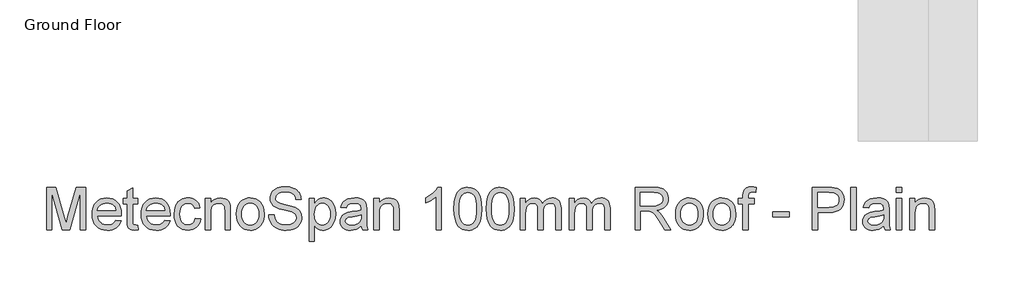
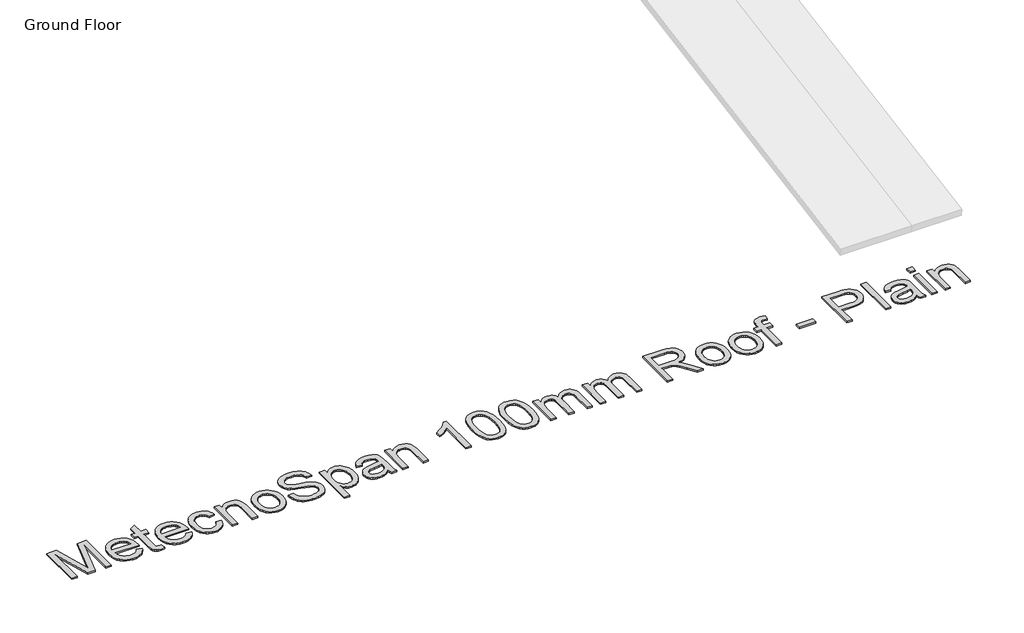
# One storey, part 9 of 14: 1 proxy.
"""IFC4 building model written with IfcOpenShell, lengths in millimetres."""

from ifc_helpers import new_model, si_unit, origin, origin_with_axes, place, context, project, spatial, polyline, outline, extrude, element, save

model = new_model("IFC4")

# Units and contexts
model_context = context("Model", 3, world=origin())
ifc_project = project(units=[si_unit("LENGTHUNIT", "METRE", prefix="MILLI")], contexts=[model_context])

# Site, building, storey
site = spatial("IfcSite", under=ifc_project)
building = spatial("IfcBuilding", under=site)
storey = spatial("IfcBuildingStorey", under=building, Name="Ground Floor", Elevation=0.0)

# Proxy
placement = place(None, origin())
element("IfcBuildingElementProxy", 1, Name="600mm Arial", ObjectType="600mm Arial", at=placement, inside=storey, context=model_context, shape_type="SweptSolid", body=[
    extrude(outline(polyline([(72437.1624792, -5207.4945964), (72437.1624792, -4604.7567355), (72566.8040943, -4604.7567355), (72690.1181391, -5029.5868635), (72714.986962, -5118.3200007), (72741.915924, -5022.2292236), (72863.1698296, -4604.7567355), (72992.8114447, -4604.7567355), (72992.8114447, -5207.4945964), (72917.4692121, -5207.4945964), (72917.4692121, -4680.0989681), (72766.0489829, -5207.4945964), (72663.924941, -5207.4945964), (72512.5047118, -4680.0989681), (72512.5047118, -5207.4945964), (72437.1624792, -5207.4945964)])), origin_with_axes(), (0.0, 0.0, 1.0), 20.0),
    extrude(outline(polyline([(73425.1463654, -5075.6456893), (73499.0170701, -5085.0634684), (73487.6909031, -5114.6503778), (73472.4008077, -5140.7240143), (73453.1467838, -5163.2843776), (73429.9288314, -5182.3314679), (73402.9860738, -5197.460615), (73372.5576342, -5208.2671486), (73338.6435128, -5214.7510687), (73301.2437095, -5216.9123755), (73254.4951049, -5213.1829717), (73212.841666, -5201.9947605), (73176.2833928, -5183.3477419), (73144.8202851, -5157.2419158), (73119.5192009, -5124.4038492), (73101.4469979, -5085.5601091), (73090.6036761, -5040.7106953), (73086.9892355, -4989.855608), (73090.6404643, -4937.2760739), (73101.5941507, -4890.9321395), (73119.8502947, -4850.823805), (73145.4088963, -4816.9510703), (73176.7892305, -4790.0405023), (73212.5105722, -4770.8186681), (73252.5729215, -4759.2855676), (73296.9762783, -4755.4412007), (73339.9494939, -4759.2763705), (73378.8116281, -4770.7818799), (73413.5626811, -4789.9577289), (73444.2026528, -4816.8039175), (73469.2140299, -4850.6030758), (73487.0792993, -4890.6378339), (73497.798461, -4936.9081919), (73501.3715148, -4989.4141496), (73500.9300564, -5009.7212358), (73162.3314681, -5009.7212358), (73166.6954683, -5039.7863918), (73175.3728848, -5066.1175456), (73188.3637178, -5088.7146972), (73205.6679671, -5107.5778465), (73226.3291397, -5122.4494761), (73249.3907422, -5133.0720688), (73274.8527748, -5139.4456243), (73302.7152374, -5141.5701428), (73342.8143749, -5137.6338055), (73376.5859421, -5125.8247934), (73404.0299389, -5105.4073427), (73425.1463654, -5075.6456893)]), holes=[polyline([(73162.3314681, -4934.3790032), (73426.0292822, -4934.3790032), (73415.838951, -4894.5741713), (73407.0741624, -4878.9207924), (73395.8629586, -4866.1001049), (73375.3167492, -4850.6490611), (73351.9378484, -4839.6126012), (73325.7262562, -4832.9907253), (73296.6819727, -4830.7834333), (73270.1898705, -4832.5446684), (73245.8958633, -4837.8283735), (73223.799951, -4846.6345488), (73203.9021335, -4858.9631941), (73187.2048895, -4874.2440925), (73174.7106972, -4891.9070268), (73166.4195568, -4911.951997), (73162.3314681, -4934.3790032)])]), origin_with_axes(), (0.0, 0.0, 1.0), 20.0),
    extrude(outline(polyline([(73736.8159918, -5144.6603516), (73746.2337708, -5209.7018883), (73689.8742492, -5216.9123755), (73653.711449, -5213.7853785), (73626.7456988, -5204.4043876), (73607.6894114, -5189.9466252), (73595.255, -5171.5893136), (73588.4123949, -5140.0618267), (73586.1315265, -5086.093538), (73586.1315265, -4840.2012124), (73529.6248521, -4840.2012124), (73529.6248521, -4764.8589798), (73586.1315265, -4764.8589798), (73586.1315265, -4657.2902844), (73661.4737591, -4612.9972922), (73661.4737591, -4764.8589798), (73736.8159918, -4764.8589798), (73736.8159918, -4840.2012124), (73661.4737591, -4840.2012124), (73661.4737591, -5083.886246), (73665.4468847, -5122.7345847), (73678.3227545, -5136.4933713), (73689.1936675, -5140.30095), (73704.0009178, -5141.5701428), (73736.8159918, -5144.6603516)])), origin_with_axes(), (0.0, 0.0, 1.0), 20.0),
    extrude(outline(polyline([(74122.0620171, -5075.6456893), (74195.9327217, -5085.0634684), (74184.6065548, -5114.6503778), (74169.3164594, -5140.7240143), (74150.0624355, -5163.2843776), (74126.844483, -5182.3314679), (74099.9017254, -5197.460615), (74069.4732859, -5208.2671486), (74035.5591645, -5214.7510687), (73998.1593611, -5216.9123755), (73951.4107566, -5213.1829717), (73909.7573177, -5201.9947605), (73873.1990444, -5183.3477419), (73841.7359368, -5157.2419158), (73816.4348526, -5124.4038492), (73798.3626495, -5085.5601091), (73787.5193277, -5040.7106953), (73783.9048871, -4989.855608), (73787.5561159, -4937.2760739), (73798.5098023, -4890.9321395), (73816.7659464, -4850.823805), (73842.324548, -4816.9510703), (73873.7048822, -4790.0405023), (73909.4262239, -4770.8186681), (73949.4885732, -4759.2855676), (73993.89193, -4755.4412007), (74036.8651455, -4759.2763705), (74075.7272798, -4770.7818799), (74110.4783328, -4789.9577289), (74141.1183045, -4816.8039175), (74166.1296816, -4850.6030758), (74183.994951, -4890.6378339), (74194.7141126, -4936.9081919), (74198.2871665, -4989.4141496), (74197.8457081, -5009.7212358), (73859.2471197, -5009.7212358), (73863.6111199, -5039.7863918), (73872.2885365, -5066.1175456), (73885.2793694, -5088.7146972), (73902.5836188, -5107.5778465), (73923.2447913, -5122.4494761), (73946.3063939, -5133.0720688), (73971.7684265, -5139.4456243), (73999.6308891, -5141.5701428), (74039.7300266, -5137.6338055), (74073.5015937, -5125.8247934), (74100.9455906, -5105.4073427), (74122.0620171, -5075.6456893)]), holes=[polyline([(73859.2471197, -4934.3790032), (74122.9449339, -4934.3790032), (74112.7546026, -4894.5741713), (74103.9898141, -4878.9207924), (74092.7786103, -4866.1001049), (74072.2324009, -4850.6490611), (74048.8535001, -4839.6126012), (74022.6419079, -4832.9907253), (73993.5976244, -4830.7834333), (73967.1055222, -4832.5446684), (73942.811515, -4837.8283735), (73920.7156026, -4846.6345488), (73900.8177852, -4858.9631941), (73884.1205411, -4874.2440925), (73871.6263489, -4891.9070268), (73863.3352084, -4911.951997), (73859.2471197, -4934.3790032)])]), origin_with_axes(), (0.0, 0.0, 1.0), 20.0),
    extrude(outline(polyline([(74556.1627714, -5047.3923521), (74631.505004, -5056.8101312), (74623.3104326, -5092.3613275), (74610.4989421, -5123.8198366), (74593.0705326, -5151.1856585), (74571.025204, -5174.4587932), (74545.2918585, -5193.0322354), (74516.7993979, -5206.2989799), (74485.5478224, -5214.2590266), (74451.537132, -5216.9123755), (74409.2812863, -5213.2105629), (74371.3940393, -5202.1051251), (74337.875391, -5183.5960623), (74308.7253415, -5157.6833742), (74285.13031, -5124.8545047), (74268.2767161, -5085.5968973), (74258.1645597, -5039.910552), (74254.793841, -4987.7954689), (74260.5511942, -4920.7489752), (74267.7478857, -4890.5780531), (74277.8232539, -4862.6420141), (74290.8462765, -4837.5018783), (74306.8859315, -4815.7186656), (74325.9422188, -4797.2923762), (74348.0151385, -4782.22301), (74372.1068107, -4770.5059684), (74397.2193554, -4762.136653), (74423.3527726, -4757.1150638), (74450.5070624, -4755.4412007), (74483.9337402, -4757.7404632), (74514.1690417, -4764.6382506), (74541.2129668, -4776.1345629), (74565.0655157, -4792.2294002), (74585.3220181, -4812.5548805), (74601.5778037, -4836.7431216), (74613.8328727, -4864.7941238), (74622.0872249, -4896.7078869), (74546.7449923, -4906.1256659), (74533.0781762, -4873.2554097), (74511.7962028, -4849.6925679), (74484.0762945, -4835.510717), (74451.0956736, -4830.7834333), (74425.4956852, -4833.1102869), (74402.4064915, -4840.0908478), (74381.8280924, -4851.7251159), (74363.7604879, -4868.0130912), (74349.0498067, -4889.3318528), (74338.5421772, -4916.0584798), (74332.2375995, -4948.1929721), (74330.1360736, -4985.7353297), (74332.1916142, -5023.8433059), (74338.3582362, -5056.3502787), (74348.6359394, -5083.2562481), (74363.0247239, -5104.5612141), (74380.7336435, -5120.7526204), (74400.9717517, -5132.3179107), (74423.7390487, -5139.2570848), (74449.0355344, -5141.5701428), (74488.04942, -5135.7943955), (74504.921408, -5128.5747114), (74520.0367595, -5118.4671535), (74532.9724101, -5105.3613575), (74543.3052957, -5089.1469585), (74551.0354161, -5069.8239567), (74556.1627714, -5047.3923521)])), origin_with_axes(), (0.0, 0.0, 1.0), 20.0),
    extrude(outline(polyline([(74697.4294576, -5207.4945964), (74697.4294576, -4764.8589798), (74772.7716902, -4764.8589798), (74772.7716902, -4826.663155), (74798.9464941, -4795.50355), (74830.3820106, -4773.2466893), (74867.0782396, -4759.8925728), (74909.0351812, -4755.4412007), (74946.1728686, -4759.0280502), (74980.1835591, -4769.7885985), (75008.5472609, -4786.3800765), (75028.7439824, -4807.4597148), (75042.4475867, -4832.9723312), (75051.3319369, -4862.8627433), (75055.3050625, -4935.7033783), (75055.3050625, -5207.4945964), (74979.9628299, -5207.4945964), (74979.9628299, -4945.8569214), (74977.7923261, -4906.8982181), (74971.2808148, -4879.1967039), (74959.2694676, -4859.3494702), (74940.5994564, -4843.9536087), (74916.6687326, -4834.0759772), (74888.8752478, -4830.7834333), (74865.9975863, -4832.6320403), (74844.7478025, -4838.1778614), (74825.1258966, -4847.4208965), (74807.1318685, -4860.3611457), (74792.0992905, -4878.4701369), (74781.3617348, -4903.2193982), (74774.9192013, -4934.6089294), (74772.7716902, -4972.6387307), (74772.7716902, -5207.4945964), (74697.4294576, -5207.4945964)])), origin_with_axes(), (0.0, 0.0, 1.0), 20.0),
    extrude(outline(polyline([(75140.0650742, -4986.1767881), (75144.1393673, -4928.8515762), (75156.3622465, -4879.4542213), (75176.733712, -4837.9847234), (75205.2537637, -4804.4430825), (75233.9669534, -4783.0047592), (75265.6599873, -4767.6916711), (75300.3328654, -4758.5038183), (75337.9855876, -4755.4412007), (75379.5516545, -4759.1706044), (75417.1353988, -4770.3588156), (75450.7368206, -4789.0058342), (75480.3559197, -4815.1116603), (75504.5303653, -4847.7933771), (75521.7978265, -4886.1680677), (75532.1583031, -4930.2357322), (75535.6117954, -4979.9963706), (75534.0850851, -5020.3254343), (75529.5049543, -5056.1111554), (75521.8714029, -5087.3535338), (75511.1844309, -5114.0525696), (75497.5773956, -5137.1141722), (75481.1836542, -5157.4442509), (75462.0032067, -5175.0428059), (75440.036053, -5189.909837), (75416.1375189, -5201.7234476), (75391.16293, -5210.1617408), (75365.1122862, -5215.2247168), (75337.9855876, -5216.9123755), (75295.8125153, -5213.1967673), (75257.8792831, -5202.0499428), (75224.1858909, -5183.4719021), (75194.7323386, -5157.462645), (75170.8154104, -5124.4636301), (75153.7318903, -5084.9163156), (75143.4817782, -5038.8207016), (75140.0650742, -4986.1767881)]), holes=[polyline([(75215.4073068, -4986.0296353), (75217.5870076, -5022.574113), (75224.1261101, -5054.2165631), (75235.0246142, -5080.9569856), (75250.2825199, -5102.7953805), (75268.8421666, -5119.7593391), (75289.6458934, -5131.8764523), (75312.6937004, -5139.1467202), (75337.9855876, -5141.5701428), (75363.148716, -5139.1329246), (75386.1045525, -5131.82127), (75406.8530971, -5119.6351789), (75425.3943496, -5102.5746514), (75440.6522554, -5080.5201257), (75451.5507595, -5053.3520404), (75458.0898619, -5021.0703953), (75460.2695628, -4983.6751905), (75458.0760664, -4948.2895411), (75451.4955772, -4917.4748255), (75440.5280952, -4891.2310436), (75425.1736204, -4869.5581956), (75406.56339, -4852.5942371), (75385.828641, -4840.4771239), (75362.9693736, -4833.206856), (75337.9855876, -4830.7834333), (75312.6937004, -4833.1976589), (75289.6458934, -4840.4403357), (75268.8421666, -4852.5114637), (75250.2825199, -4869.4110428), (75235.0246142, -4891.1850584), (75224.1261101, -4917.8794957), (75217.5870076, -4949.4943546), (75215.4073068, -4986.0296353)])]), origin_with_axes(), (0.0, 0.0, 1.0), 20.0),
    extrude(outline(polyline([(75601.5362489, -5000.3034567), (75676.8784815, -5000.3034567), (75685.5237084, -5042.1132454), (75701.1586932, -5075.7192657), (75725.5492695, -5102.3907104), (75760.4612708, -5123.3967723), (75803.1355823, -5137.0268002), (75850.8130888, -5141.5701428), (75892.7884245, -5138.1304462), (75929.5398358, -5127.8113562), (75959.3198833, -5111.4773956), (75980.3811275, -5089.9930871), (75992.9075095, -5065.3265993), (75997.0829701, -5039.446101), (75993.9559732, -5014.2277902), (75984.5749823, -4992.430782), (75965.5186949, -4973.8343471), (75933.3658086, -4958.2177564), (75823.6633976, -4929.4493844), (75751.650497, -4910.4114912), (75705.5732771, -4892.2933029), (75668.0677077, -4866.9462334), (75641.4882336, -4836.2280868), (75625.6509137, -4800.8010507), (75620.3718071, -4761.3273126), (75622.0042834, -4738.8911094), (75626.9017125, -4717.1998673), (75635.0640942, -4696.2535862), (75646.4914287, -4676.0522661), (75661.0549572, -4657.4190431), (75678.625921, -4641.177053), (75699.2043201, -4627.3262959), (75722.7901545, -4615.8667717), (75775.80195, -4600.4709102), (75834.4791283, -4595.3389564), (75898.049137, -4600.7100335), (75953.6728947, -4616.8232649), (75978.0082887, -4628.825415), (75999.3638385, -4643.3475568), (76017.7395441, -4660.3896902), (76033.1354056, -4679.9518153), (76045.4318613, -4701.463715), (76054.5093496, -4724.3551721), (76060.3678703, -4748.6261867), (76063.0074237, -4774.2767589), (75987.665191, -4774.2767589), (75982.6252077, -4750.2356705), (75973.832828, -4729.321579), (75961.288052, -4711.5344846), (75944.9908796, -4696.8743871), (75924.6378082, -4685.4148629), (75899.9253352, -4677.2294885), (75870.8534605, -4672.3182639), (75837.4221842, -4670.681189), (75802.9240501, -4672.2998698), (75773.4475053, -4677.1559121), (75748.9925496, -4685.249316), (75729.5591832, -4696.5800815), (75714.7519329, -4710.2009123), (75704.1753256, -4725.1645125), (75697.8293611, -4741.4708819), (75695.7140397, -4759.1200207), (75697.2131588, -4774.30435), (75701.7105162, -4788.0723337), (75709.2061118, -4800.4239717), (75719.6999458, -4811.359264), (75736.2178473, -4821.7151421), (75762.2271044, -4832.1813849), (75842.7196849, -4853.4449642), (75925.7874395, -4873.6416858), (75976.04012, -4891.2632333), (76018.9903429, -4918.5968656), (76035.5956165, -4934.6641117), (76048.9543314, -4952.3316445), (76059.2228376, -4971.5074935), (76066.5574849, -4992.0996882), (76072.4252027, -5037.5331146), (76070.7375441, -5061.1005549), (76065.6745681, -5083.9782165), (76057.2362749, -5106.1660993), (76045.4226643, -5127.6642034), (76030.44067, -5147.6401958), (76012.4972257, -5165.2617433), (75991.5923313, -5180.5288461), (75967.7259869, -5193.4415042), (75941.5925697, -5203.7100104), (75913.8864569, -5211.0446576), (75853.7561448, -5216.9123755), (75815.2159073, -5215.3304829), (75779.9406225, -5210.5848051), (75747.9302904, -5202.6753422), (75719.184911, -5191.6020942), (75693.5297403, -5177.3466669), (75670.7900345, -5159.8906662), (75650.9657935, -5139.2340922), (75634.0570173, -5115.3769448), (75620.4361864, -5089.0917762), (75610.4757814, -5061.1511387), (75604.1758022, -5031.5550322), (75601.5362489, -5000.3034567)])), origin_with_axes(), (0.0, 0.0, 1.0), 20.0),
    extrude(outline(polyline([(76176.0207726, -5377.0146198), (76176.0207726, -4764.8589798), (76251.3630052, -4764.8589798), (76251.3630052, -4838.7296844), (76275.9375225, -4802.2909728), (76303.4550957, -4776.2633216), (76335.5344057, -4760.6467309), (76373.7941332, -4755.4412007), (76400.0701047, -4757.2622166), (76424.7457895, -4762.7252642), (76447.8211877, -4771.8303436), (76469.2962991, -4784.5774547), (76488.7020744, -4800.6355038), (76505.5694639, -4819.6733971), (76519.8984676, -4841.6911345), (76531.6890855, -4866.688716), (76547.4712231, -4922.2021091), (76552.7319356, -4982.7922737), (76546.7906414, -5047.2268052), (76539.3640236, -5076.8918896), (76528.9667587, -5104.8555197), (76515.741401, -5130.3865302), (76499.8305047, -5152.7537555), (76481.2340699, -5171.9571956), (76459.9520965, -5187.9968506), (76437.0284496, -5200.6473927), (76413.5069946, -5209.6834942), (76389.3877313, -5215.1051552), (76364.6706597, -5216.9123755), (76330.0345699, -5212.0747272), (76299.1140882, -5197.5617825), (76272.6449786, -5175.6544097), (76251.3630052, -5148.6334771), (76251.3630052, -5377.0146198), (76176.0207726, -5377.0146198)]), holes=[polyline([(76251.3630052, -4989.7084552), (76253.4001517, -5026.0184082), (76259.5115914, -5057.2515895), (76269.6973241, -5083.4079994), (76283.95735, -5104.4876377), (76301.1236436, -5120.7112337), (76320.0281796, -5132.2995166), (76340.670958, -5139.2524863), (76363.0519789, -5141.5701428), (76385.7548965, -5139.1697128), (76406.774754, -5131.9684228), (76426.1115514, -5119.9662727), (76443.7652887, -5103.1632625), (76458.4759699, -5081.3202691), (76468.9835994, -5054.198169), (76475.2881771, -5021.7969623), (76477.389703, -4984.1166489), (76475.3387609, -4948.1193957), (76469.1859345, -4916.9413966), (76458.9312239, -4890.5826516), (76444.5746291, -4869.0431608), (76427.3669487, -4852.30453), (76408.5589817, -4840.3483652), (76388.150728, -4833.1746663), (76366.1421877, -4830.7834333), (76344.2026252, -4833.3264176), (76323.5598467, -4840.9553705), (76304.2138523, -4853.6702919), (76286.1646419, -4871.471182), (76270.9389259, -4894.1189173), (76260.0634144, -4921.3743746), (76253.5381075, -4953.2375539), (76251.3630052, -4989.7084552)])]), origin_with_axes(), (0.0, 0.0, 1.0), 20.0),
    extrude(outline(polyline([(76920.0253196, -5150.9879219), (76884.0280664, -5181.8532213), (76846.9639554, -5202.0499428), (76807.986858, -5213.1967673), (76766.2506456, -5216.9123755), (76732.7044062, -5214.6774923), (76703.2876422, -5207.972843), (76678.0003535, -5196.7984274), (76656.8425403, -5181.1542455), (76640.1360992, -5162.0335788), (76628.2029269, -5140.4297087), (76621.0430236, -5116.342635), (76618.6563892, -5089.7723579), (76622.2616327, -5058.5391765), (76633.0773634, -5030.1754747), (76649.7608119, -5005.895263), (76670.9692089, -4986.9125521), (76695.8932141, -4972.5651543), (76723.723487, -4962.190882), (76788.9121765, -4950.8601165), (76865.9466663, -4938.9407399), (76919.5838612, -4924.9612241), (76920.0253196, -4908.1858051), (76914.8381835, -4874.5613907), (76908.3542633, -4862.1085852), (76899.2767751, -4852.5620474), (76883.586608, -4843.0339038), (76864.4751383, -4836.2280868), (76815.9882914, -4830.7834333), (76771.106688, -4834.407071), (76739.763142, -4845.2779839), (76718.3891981, -4865.382735), (76703.4164009, -4896.7078869), (76628.0741682, -4887.2901078), (76641.1523732, -4846.0873243), (76660.668513, -4813.7137087), (76688.4436037, -4788.9552505), (76726.298661, -4770.5979389), (76772.5966101, -4759.2303853), (76825.7003761, -4755.4412007), (76876.6336383, -4758.7889269), (76917.0086873, -4768.8321053), (76947.4509224, -4783.9336612), (76968.585743, -4802.4565197), (76982.602047, -4825.3571739), (76991.6887323, -4853.592117), (76995.3675522, -4919.5165706), (76995.3675522, -5013.2529029), (76999.193525, -5144.1453168), (77004.8589077, -5176.5005383), (77014.2031104, -5207.4945964), (76938.8608778, -5207.4945964), (76926.7943483, -5181.3013983), (76920.0253196, -5150.9879219)]), holes=[polyline([(76920.0253196, -5000.3034567), (76869.4047571, -5012.8482327), (76798.4771084, -5023.406446), (76733.6563009, -5035.6201282), (76716.7889114, -5043.9710495), (76704.2993176, -5055.485756), (76696.5737957, -5069.2813308), (76693.9986218, -5084.4748572), (76699.6088222, -5106.8788707), (76716.4394235, -5125.2361823), (76744.1225436, -5137.4866527), (76782.2903006, -5141.5701428), (76822.7573201, -5137.0635884), (76858.51545, -5123.5439251), (76887.5045512, -5103.623115), (76907.6644846, -5079.9131204), (76916.6040171, -5055.485756), (76919.5838612, -5021.6406124), (76920.0253196, -5000.3034567)])]), origin_with_axes(), (0.0, 0.0, 1.0), 20.0),
    extrude(outline(polyline([(77098.9631221, -5207.4945964), (77098.9631221, -4764.8589798), (77174.3053547, -4764.8589798), (77174.3053547, -4826.663155), (77200.4801586, -4795.50355), (77231.9156751, -4773.2466893), (77268.6119041, -4759.8925728), (77310.5688457, -4755.4412007), (77347.7065331, -4759.0280502), (77381.7172236, -4769.7885985), (77410.0809254, -4786.3800765), (77430.2776469, -4807.4597148), (77443.9812512, -4832.9723312), (77452.8656014, -4862.8627433), (77456.838727, -4935.7033783), (77456.838727, -5207.4945964), (77381.4964944, -5207.4945964), (77381.4964944, -4945.8569214), (77379.3259906, -4906.8982181), (77372.8144793, -4879.1967039), (77360.8031321, -4859.3494702), (77342.1331209, -4843.9536087), (77318.2023971, -4834.0759772), (77290.4089124, -4830.7834333), (77267.5312508, -4832.6320403), (77246.281467, -4838.1778614), (77226.6595611, -4847.4208965), (77208.665533, -4860.3611457), (77193.632955, -4878.4701369), (77182.8953993, -4903.2193982), (77176.4528658, -4934.6089294), (77174.3053547, -4972.6387307), (77174.3053547, -5207.4945964), (77098.9631221, -5207.4945964)])), origin_with_axes(), (0.0, 0.0, 1.0), 20.0),
    extrude(outline(polyline([(78059.5765879, -5207.4945964), (77984.2343553, -5207.4945964), (77984.2343553, -4737.7828649), (77952.7804447, -4763.2219049), (77912.8652482, -4788.6241567), (77870.963489, -4810.8258351), (77833.54989, -4826.663155), (77833.54989, -4755.4412007), (77892.723709, -4723.2515261), (77943.988065, -4684.9550104), (77984.3999022, -4644.2304736), (78011.0161645, -4604.7567355), (78059.5765879, -4604.7567355), (78059.5765879, -5207.4945964)])), origin_with_axes(), (0.0, 0.0, 1.0), 20.0),
    extrude(outline(polyline([(78238.5143903, -4910.9817083), (78244.0510144, -4814.504655), (78250.9717944, -4773.5915786), (78260.6608864, -4737.5621357), (78273.0769038, -4706.1220207), (78288.1784597, -4678.976928), (78305.9655541, -4656.1268576), (78326.4381872, -4637.5718094), (78349.6653367, -4623.2152146), (78375.7159804, -4612.960504), (78404.5901185, -4606.8076776), (78436.2877509, -4604.7567355), (78482.7144587, -4609.6127778), (78524.2851242, -4624.1809048), (78559.0499727, -4647.8908994), (78585.0592298, -4680.1725445), (78604.7041283, -4720.7499286), (78620.3759013, -4769.3471401), (78630.639809, -4831.0593448), (78634.0611115, -4910.9817083), (78628.5796698, -5006.9069385), (78621.7278677, -5047.6820591), (78612.1353446, -5083.6655168), (78599.8158963, -5115.1194274), (78584.7833183, -5142.3059068), (78567.0376106, -5165.2249551), (78546.5787731, -5183.8765723), (78523.3240325, -5198.3297362), (78497.1906152, -5208.6534247), (78468.1785214, -5214.8476378), (78436.2877509, -5216.9123755), (78394.7906619, -5213.325526), (78358.0024624, -5202.5649776), (78325.9231524, -5184.6307304), (78298.5527319, -5159.5227842), (78272.2859575, -5114.135343), (78253.5239757, -5057.5826833), (78242.2667867, -4989.8648051), (78238.5143903, -4910.9817083)]), holes=[polyline([(78313.8566229, -4910.8345555), (78316.0639149, -4976.3313462), (78322.6857908, -5029.3477402), (78333.7222507, -5069.8837376), (78349.1732945, -5097.9393382), (78367.8616998, -5117.0278152), (78388.6102444, -5130.6624417), (78411.4189281, -5138.8432176), (78436.2877509, -5141.5701428), (78461.1565738, -5138.8340205), (78483.9652575, -5130.6256535), (78504.713802, -5116.9450418), (78523.4022074, -5097.7921854), (78538.8532512, -5069.6905995), (78549.8897111, -5029.1637992), (78556.511587, -4976.2117845), (78558.7188789, -4910.8345555), (78556.5851634, -4847.0714087), (78550.1840166, -4794.9885152), (78539.5154388, -4754.5858751), (78524.5794298, -4725.8634883), (78506.2037241, -4705.8415107), (78485.2160563, -4691.5400981), (78461.6164263, -4682.9592506), (78435.4048342, -4680.0989681), (78410.66477, -4682.6189598), (78388.2423624, -4690.1789348), (78368.1376113, -4702.7788931), (78350.3505169, -4720.4188348), (78334.3844383, -4751.6888044), (78322.9800964, -4793.848081), (78316.1374913, -4846.8966647), (78313.8566229, -4910.8345555)])]), origin_with_axes(), (0.0, 0.0, 1.0), 20.0),
    extrude(outline(polyline([(78699.9855651, -4910.9817083), (78705.5221891, -4814.504655), (78712.4429691, -4773.5915786), (78722.1320612, -4737.5621357), (78734.5480785, -4706.1220207), (78749.6496344, -4678.976928), (78767.4367289, -4656.1268576), (78787.9093619, -4637.5718094), (78811.1365114, -4623.2152146), (78837.1871552, -4612.960504), (78866.0612933, -4606.8076776), (78897.7589257, -4604.7567355), (78944.1856335, -4609.6127778), (78985.7562989, -4624.1809048), (79020.5211475, -4647.8908994), (79046.5304045, -4680.1725445), (79066.1753031, -4720.7499286), (79081.8470761, -4769.3471401), (79092.1109837, -4831.0593448), (79095.5322863, -4910.9817083), (79090.0508446, -5006.9069385), (79083.1990424, -5047.6820591), (79073.6065194, -5083.6655168), (79061.2870711, -5115.1194274), (79046.254493, -5142.3059068), (79028.5087853, -5165.2249551), (79008.0499478, -5183.8765723), (78984.7952072, -5198.3297362), (78958.66179, -5208.6534247), (78929.6496961, -5214.8476378), (78897.7589257, -5216.9123755), (78856.2618366, -5213.325526), (78819.4736371, -5202.5649776), (78787.3943271, -5184.6307304), (78760.0239067, -5159.5227842), (78733.7571322, -5114.135343), (78714.9951505, -5057.5826833), (78703.7379614, -4989.8648051), (78699.9855651, -4910.9817083)]), holes=[polyline([(78775.3277977, -4910.8345555), (78777.5350897, -4976.3313462), (78784.1569656, -5029.3477402), (78795.1934254, -5069.8837376), (78810.6444692, -5097.9393382), (78829.3328746, -5117.0278152), (78850.0814191, -5130.6624417), (78872.8901028, -5138.8432176), (78897.7589257, -5141.5701428), (78922.6277486, -5138.8340205), (78945.4364323, -5130.6256535), (78966.1849768, -5116.9450418), (78984.8733821, -5097.7921854), (79000.3244259, -5069.6905995), (79011.3608858, -5029.1637992), (79017.9827617, -4976.2117845), (79020.1900537, -4910.8345555), (79018.0563381, -4847.0714087), (79011.6551914, -4794.9885152), (79000.9866135, -4754.5858751), (78986.0506045, -4725.8634883), (78967.6748989, -4705.8415107), (78946.687231, -4691.5400981), (78923.0876011, -4682.9592506), (78896.8760089, -4680.0989681), (78872.1359447, -4682.6189598), (78849.7135371, -4690.1789348), (78829.6087861, -4702.7788931), (78811.8216916, -4720.4188348), (78795.855613, -4751.6888044), (78784.4512712, -4793.848081), (78777.6086661, -4846.8966647), (78775.3277977, -4910.8345555)])]), origin_with_axes(), (0.0, 0.0, 1.0), 20.0),
    extrude(outline(polyline([(79180.292298, -5207.4945964), (79180.292298, -4764.8589798), (79255.6345306, -4764.8589798), (79255.6345306, -4837.6996148), (79278.2960615, -4804.2407474), (79307.4323155, -4778.0291552), (79342.0500113, -4761.0881893), (79381.1558674, -4755.4412007), (79423.0576266, -4761.1985539), (79440.8907063, -4768.3952455), (79456.6452528, -4778.4706136), (79481.7348048, -4806.1169455), (79498.1423418, -4842.9971156), (79525.6047328, -4804.6914028), (79556.9298846, -4777.3301794), (79592.1177975, -4760.9134454), (79631.1684713, -4755.4412007), (79661.3301964, -4757.7174705), (79687.8039044, -4764.5462801), (79710.5895955, -4775.9276293), (79729.6872696, -4791.8615182), (79744.784227, -4812.5318878), (79755.5677679, -4838.1226791), (79762.0378925, -4868.6338921), (79764.1946007, -4904.0655268), (79764.1946007, -5207.4945964), (79688.8523681, -5207.4945964), (79688.8523681, -4936.4391423), (79687.1049286, -4898.8599965), (79681.8626102, -4873.5313212), (79672.0401609, -4856.1856851), (79656.5523289, -4842.5556572), (79636.6315189, -4833.7264893), (79613.5101355, -4830.7834333), (79592.1591842, -4832.6688285), (79572.6936281, -4838.3250142), (79555.1134673, -4847.7519903), (79539.4187017, -4860.9497569), (79526.5106422, -4878.30459), (79517.2905997, -4900.2027658), (79511.7585742, -4926.6442842), (79509.9145657, -4957.6291453), (79509.9145657, -5207.4945964), (79434.5723331, -5207.4945964), (79434.5723331, -4928.0514328), (79430.2129314, -4885.4506978), (79424.7636794, -4868.7304611), (79417.1347265, -4855.063645), (79407.0225701, -4844.4410524), (79394.1237077, -4836.8534862), (79378.4381391, -4832.3009465), (79359.9658644, -4830.7834333), (79330.939975, -4834.8301353), (79304.194954, -4846.9702411), (79282.1220343, -4866.9094452), (79267.1124488, -4894.3534421), (79258.5040102, -4932.4292286), (79255.6345306, -4984.2638017), (79255.6345306, -5207.4945964), (79180.292298, -5207.4945964)])), origin_with_axes(), (0.0, 0.0, 1.0), 20.0),
    extrude(outline(polyline([(79877.2079496, -5207.4945964), (79877.2079496, -4764.8589798), (79952.5501823, -4764.8589798), (79952.5501823, -4837.6996148), (79975.2117132, -4804.2407474), (80004.3479672, -4778.0291552), (80038.9656629, -4761.0881893), (80078.071519, -4755.4412007), (80119.9732783, -4761.1985539), (80137.806358, -4768.3952455), (80153.5609044, -4778.4706136), (80178.6504565, -4806.1169455), (80195.0579935, -4842.9971156), (80222.5203844, -4804.6914028), (80253.8455363, -4777.3301794), (80289.0334491, -4760.9134454), (80328.0841229, -4755.4412007), (80358.245848, -4757.7174705), (80384.7195561, -4764.5462801), (80407.5052472, -4775.9276293), (80426.6029212, -4791.8615182), (80441.6998786, -4812.5318878), (80452.4834196, -4838.1226791), (80458.9535442, -4868.6338921), (80461.1102524, -4904.0655268), (80461.1102524, -5207.4945964), (80385.7680198, -5207.4945964), (80385.7680198, -4936.4391423), (80384.0205803, -4898.8599965), (80378.7782619, -4873.5313212), (80368.9558126, -4856.1856851), (80353.4679806, -4842.5556572), (80333.5471706, -4833.7264893), (80310.4257872, -4830.7834333), (80289.0748359, -4832.6688285), (80269.6092798, -4838.3250142), (80252.029119, -4847.7519903), (80236.3343533, -4860.9497569), (80223.4262938, -4878.30459), (80214.2062513, -4900.2027658), (80208.6742258, -4926.6442842), (80206.8302173, -4957.6291453), (80206.8302173, -5207.4945964), (80131.4879847, -5207.4945964), (80131.4879847, -4928.0514328), (80127.1285831, -4885.4506978), (80121.679331, -4868.7304611), (80114.0503781, -4855.063645), (80103.9382218, -4844.4410524), (80091.0393593, -4836.8534862), (80075.3537908, -4832.3009465), (80056.8815161, -4830.7834333), (80027.8556267, -4834.8301353), (80001.1106056, -4846.9702411), (79979.0376859, -4866.9094452), (79964.0281005, -4894.3534421), (79955.4196618, -4932.4292286), (79952.5501823, -4984.2638017), (79952.5501823, -5207.4945964), (79877.2079496, -5207.4945964)])), origin_with_axes(), (0.0, 0.0, 1.0), 20.0),
    extrude(outline(polyline([(80818.9858573, -5207.4945964), (80818.9858573, -4604.7567355), (81078.7105459, -4604.7567355), (81148.5161545, -4608.8218315), (81199.3022639, -4621.0171197), (81218.9011772, -4630.7108102), (81236.4215572, -4643.5314978), (81251.863404, -4659.4791823), (81265.2267175, -4678.5538637), (81276.0102584, -4699.7300711), (81283.7127877, -4721.9823332), (81288.3343053, -4745.3106503), (81289.8748111, -4769.7150221), (81287.3226298, -4800.672292), (81279.6660858, -4829.0911761), (81266.9051791, -4854.9716745), (81249.0399097, -4878.3137871), (81225.8403513, -4898.3725529), (81197.0765778, -4914.4030108), (81162.7485892, -4926.4051609), (81122.8563853, -4934.3790032), (81147.68842, -4950.6025991), (81165.6778496, -4966.6054659), (81196.543149, -5003.2097245), (81226.7462608, -5044.1549905), (81327.2516218, -5207.4945964), (81239.695707, -5207.4945964), (81161.2632656, -5082.5618708), (81104.6094384, -4999.8619983), (81083.5481941, -4975.7473335), (81064.8046065, -4960.7929304), (81028.9729001, -4946.4455326), (80985.2685191, -4943.7967822), (80894.3280899, -4943.7967822), (80894.3280899, -5207.4945964), (80818.9858573, -5207.4945964)]), holes=[polyline([(80894.3280899, -4868.4545496), (81062.9651965, -4868.4545496), (81111.3968612, -4865.7874052), (81148.976007, -4857.7859718), (81177.2661324, -4843.9168205), (81197.8307359, -4823.6465226), (81210.3571179, -4799.1271876), (81214.5325785, -4772.5109253), (81212.5414172, -4753.2431058), (81206.5679333, -4735.759514), (81196.6121268, -4720.0601498), (81182.6739977, -4706.1450133), (81164.4316493, -4694.7498685), (81141.5631848, -4686.6104794), (81114.0686042, -4681.7268459), (81081.9479075, -4680.0989681), (80894.3280899, -4680.0989681), (80894.3280899, -4868.4545496)])]), origin_with_axes(), (0.0, 0.0, 1.0), 20.0),
    extrude(outline(polyline([(81393.470381, -4986.1767881), (81397.5446741, -4928.8515762), (81409.7675534, -4879.4542213), (81430.1390188, -4837.9847234), (81458.6590705, -4804.4430825), (81487.3722602, -4783.0047592), (81519.0652941, -4767.6916711), (81553.7381722, -4758.5038183), (81591.3908944, -4755.4412007), (81632.9569613, -4759.1706044), (81670.5407056, -4770.3588156), (81704.1421274, -4789.0058342), (81733.7612265, -4815.1116603), (81757.9356721, -4847.7933771), (81775.2031333, -4886.1680677), (81785.56361, -4930.2357322), (81789.0171022, -4979.9963706), (81787.4903919, -5020.3254343), (81782.9102611, -5056.1111554), (81775.2767097, -5087.3535338), (81764.5897377, -5114.0525696), (81750.9827024, -5137.1141722), (81734.588961, -5157.4442509), (81715.4085135, -5175.0428059), (81693.4413598, -5189.909837), (81669.5428257, -5201.7234476), (81644.5682368, -5210.1617408), (81618.517593, -5215.2247168), (81591.3908944, -5216.9123755), (81549.2178222, -5213.1967673), (81511.2845899, -5202.0499428), (81477.5911977, -5183.4719021), (81448.1376455, -5157.462645), (81424.2207172, -5124.4636301), (81407.1371971, -5084.9163156), (81396.887085, -5038.8207016), (81393.470381, -4986.1767881)]), holes=[polyline([(81468.8126136, -4986.0296353), (81470.9923144, -5022.574113), (81477.5314169, -5054.2165631), (81488.429921, -5080.9569856), (81503.6878267, -5102.7953805), (81522.2474734, -5119.7593391), (81543.0512002, -5131.8764523), (81566.0990072, -5139.1467202), (81591.3908944, -5141.5701428), (81616.5540228, -5139.1329246), (81639.5098593, -5131.82127), (81660.2584039, -5119.6351789), (81678.7996564, -5102.5746514), (81694.0575622, -5080.5201257), (81704.9560663, -5053.3520404), (81711.4951687, -5021.0703953), (81713.6748696, -4983.6751905), (81711.4813732, -4948.2895411), (81704.900884, -4917.4748255), (81693.933402, -4891.2310436), (81678.5789272, -4869.5581956), (81659.9686968, -4852.5942371), (81639.2339478, -4840.4771239), (81616.3746804, -4833.206856), (81591.3908944, -4830.7834333), (81566.0990072, -4833.1976589), (81543.0512002, -4840.4403357), (81522.2474734, -4852.5114637), (81503.6878267, -4869.4110428), (81488.429921, -4891.1850584), (81477.5314169, -4917.8794957), (81470.9923144, -4949.4943546), (81468.8126136, -4986.0296353)])]), origin_with_axes(), (0.0, 0.0, 1.0), 20.0),
    extrude(outline(polyline([(81854.9415557, -4986.1767881), (81859.0158488, -4928.8515762), (81871.2387281, -4879.4542213), (81891.6101936, -4837.9847234), (81920.1302453, -4804.4430825), (81948.843435, -4783.0047592), (81980.5364689, -4767.6916711), (82015.2093469, -4758.5038183), (82052.8620691, -4755.4412007), (82094.4281361, -4759.1706044), (82132.0118804, -4770.3588156), (82165.6133021, -4789.0058342), (82195.2324013, -4815.1116603), (82219.4068469, -4847.7933771), (82236.674308, -4886.1680677), (82247.0347847, -4930.2357322), (82250.4882769, -4979.9963706), (82248.9615667, -5020.3254343), (82244.3814358, -5056.1111554), (82236.7478844, -5087.3535338), (82226.0609125, -5114.0525696), (82212.4538772, -5137.1141722), (82196.0601357, -5157.4442509), (82176.8796882, -5175.0428059), (82154.9125346, -5189.909837), (82131.0140005, -5201.7234476), (82106.0394115, -5210.1617408), (82079.9887677, -5215.2247168), (82052.8620691, -5216.9123755), (82010.6889969, -5213.1967673), (81972.7557647, -5202.0499428), (81939.0623724, -5183.4719021), (81909.6088202, -5157.462645), (81885.691892, -5124.4636301), (81868.6083718, -5084.9163156), (81858.3582597, -5038.8207016), (81854.9415557, -4986.1767881)]), holes=[polyline([(81930.2837883, -4986.0296353), (81932.4634892, -5022.574113), (81939.0025916, -5054.2165631), (81949.9010957, -5080.9569856), (81965.1590015, -5102.7953805), (81983.7186481, -5119.7593391), (82004.522375, -5131.8764523), (82027.570182, -5139.1467202), (82052.8620691, -5141.5701428), (82078.0251976, -5139.1329246), (82100.9810341, -5131.82127), (82121.7295786, -5119.6351789), (82140.2708312, -5102.5746514), (82155.5287369, -5080.5201257), (82166.427241, -5053.3520404), (82172.9663435, -5021.0703953), (82175.1460443, -4983.6751905), (82172.9525479, -4948.2895411), (82166.3720587, -4917.4748255), (82155.4045768, -4891.2310436), (82140.050102, -4869.5581956), (82121.4398715, -4852.5942371), (82100.7051226, -4840.4771239), (82077.8458551, -4833.206856), (82052.8620691, -4830.7834333), (82027.570182, -4833.1976589), (82004.522375, -4840.4403357), (81983.7186481, -4852.5114637), (81965.1590015, -4869.4110428), (81949.9010957, -4891.1850584), (81939.0025916, -4917.8794957), (81932.4634892, -4949.4943546), (81930.2837883, -4986.0296353)])]), origin_with_axes(), (0.0, 0.0, 1.0), 20.0),
    extrude(outline(polyline([(82354.0838468, -5207.4945964), (82354.0838468, -4840.2012124), (82288.1593932, -4840.2012124), (82288.1593932, -4764.8589798), (82354.0838468, -4764.8589798), (82354.0838468, -4720.271682), (82356.0704095, -4683.3731178), (82362.0300979, -4657.4374372), (82377.1868361, -4632.3846733), (82400.584131, -4612.5558338), (82433.3256285, -4599.6431757), (82476.5149748, -4595.3389564), (82509.2196841, -4597.3990956), (82545.2353315, -4603.5795131), (82534.1988716, -4674.2128562), (82490.7887962, -4670.681189), (82462.1491829, -4673.808186), (82443.3320188, -4683.1891768), (82432.9025642, -4701.10503), (82429.4260794, -4729.8366138), (82429.4260794, -4764.8589798), (82514.1860911, -4764.8589798), (82514.1860911, -4840.2012124), (82429.4260794, -4840.2012124), (82429.4260794, -5207.4945964), (82354.0838468, -5207.4945964)])), origin_with_axes(), (0.0, 0.0, 1.0), 20.0),
    extrude(outline(polyline([(82777.8839052, -5028.5567939), (82777.8839052, -4953.2145613), (83013.3283821, -4953.2145613), (83013.3283821, -5028.5567939), (82777.8839052, -5028.5567939)])), origin_with_axes(), (0.0, 0.0, 1.0), 20.0),
    extrude(outline(polyline([(83342.9506498, -5207.4945964), (83342.9506498, -4604.7567355), (83566.3285973, -4604.7567355), (83618.3471114, -4606.1914753), (83656.3861097, -4610.4956946), (83696.5404295, -4621.2194548), (83729.5946267, -4638.6754554), (83756.2108891, -4663.6546429), (83777.0514041, -4696.9479635), (83790.5158851, -4736.2193665), (83795.0040455, -4779.1328012), (83791.9736175, -4816.1325329), (83782.8823337, -4850.1708145), (83767.7301941, -4881.247646), (83746.5171985, -4909.3630275), (83717.3947401, -4932.6683519), (83678.5142117, -4949.3150122), (83629.8756134, -4959.3030083), (83571.4789452, -4962.6323404), (83418.2928824, -4962.6323404), (83418.2928824, -5207.4945964), (83342.9506498, -5207.4945964)]), holes=[polyline([(83418.2928824, -4887.2901078), (83575.8935292, -4887.2901078), (83612.1299057, -4885.5610624), (83642.7008995, -4880.3739263), (83667.6065106, -4871.7286994), (83686.8467389, -4859.6253817), (83701.2033338, -4844.3858701), (83711.4580444, -4826.3320612), (83717.6108707, -4805.463955), (83719.6618129, -4781.7815516), (83714.8241646, -4747.936408), (83700.3112199, -4719.3887652), (83677.9256005, -4697.9044567), (83649.4699282, -4685.249316), (83620.4072506, -4681.3865551), (83574.1276956, -4680.0989681), (83418.2928824, -4680.0989681), (83418.2928824, -4887.2901078)])]), origin_with_axes(), (0.0, 0.0, 1.0), 20.0),
    extrude(outline(polyline([(83889.1818362, -5207.4945964), (83889.1818362, -4604.7567355), (83964.5240689, -4604.7567355), (83964.5240689, -5207.4945964), (83889.1818362, -5207.4945964)])), origin_with_axes(), (0.0, 0.0, 1.0), 20.0),
    extrude(outline(polyline([(84360.0707901, -5150.9879219), (84324.0735368, -5181.8532213), (84287.0094258, -5202.0499428), (84248.0323284, -5213.1967673), (84206.2961161, -5216.9123755), (84172.7498767, -5214.6774923), (84143.3331126, -5207.972843), (84118.045824, -5196.7984274), (84096.8880107, -5181.1542455), (84080.1815696, -5162.0335788), (84068.2483974, -5140.4297087), (84061.0884941, -5116.342635), (84058.7018596, -5089.7723579), (84062.3071032, -5058.5391765), (84073.1228338, -5030.1754747), (84089.8062823, -5005.895263), (84111.0146793, -4986.9125521), (84135.9386845, -4972.5651543), (84163.7689574, -4962.190882), (84228.957647, -4950.8601165), (84305.9921368, -4938.9407399), (84359.6293317, -4924.9612241), (84360.0707901, -4908.1858051), (84354.8836539, -4874.5613907), (84348.3997338, -4862.1085852), (84339.3222455, -4852.5620474), (84323.6320785, -4843.0339038), (84304.5206088, -4836.2280868), (84256.0337618, -4830.7834333), (84211.1521584, -4834.407071), (84179.8086124, -4845.2779839), (84158.4346685, -4865.382735), (84143.4618713, -4896.7078869), (84068.1196387, -4887.2901078), (84081.1978436, -4846.0873243), (84100.7139835, -4813.7137087), (84128.4890741, -4788.9552505), (84166.3441314, -4770.5979389), (84212.6420805, -4759.2303853), (84265.7458465, -4755.4412007), (84316.6791087, -4758.7889269), (84357.0541577, -4768.8321053), (84387.4963928, -4783.9336612), (84408.6312134, -4802.4565197), (84422.6475175, -4825.3571739), (84431.7342027, -4853.592117), (84435.4130227, -4919.5165706), (84435.4130227, -5013.2529029), (84439.2389954, -5144.1453168), (84444.9043782, -5176.5005383), (84454.2485808, -5207.4945964), (84378.9063482, -5207.4945964), (84366.8398188, -5181.3013983), (84360.0707901, -5150.9879219)]), holes=[polyline([(84360.0707901, -5000.3034567), (84309.4502275, -5012.8482327), (84238.5225789, -5023.406446), (84173.7017713, -5035.6201282), (84156.8343818, -5043.9710495), (84144.3447881, -5055.485756), (84136.6192662, -5069.2813308), (84134.0440922, -5084.4748572), (84139.6542927, -5106.8788707), (84156.4848939, -5125.2361823), (84184.1680141, -5137.4866527), (84222.3357711, -5141.5701428), (84262.8027905, -5137.0635884), (84298.5609205, -5123.5439251), (84327.5500217, -5103.623115), (84347.709955, -5079.9131204), (84356.6494875, -5055.485756), (84359.6293317, -5021.6406124), (84360.0707901, -5000.3034567)])]), origin_with_axes(), (0.0, 0.0, 1.0), 20.0),
    extrude(outline(polyline([(84539.0085925, -4680.0989681), (84539.0085925, -4604.7567355), (84614.3508251, -4604.7567355), (84614.3508251, -4680.0989681), (84539.0085925, -4680.0989681)])), origin_with_axes(), (0.0, 0.0, 1.0), 20.0),
    extrude(outline(polyline([(84539.0085925, -5207.4945964), (84539.0085925, -4764.8589798), (84614.3508251, -4764.8589798), (84614.3508251, -5207.4945964), (84539.0085925, -5207.4945964)])), origin_with_axes(), (0.0, 0.0, 1.0), 20.0),
    extrude(outline(polyline([(84727.3641741, -5207.4945964), (84727.3641741, -4764.8589798), (84802.7064067, -4764.8589798), (84802.7064067, -4826.663155), (84828.8812106, -4795.50355), (84860.3167271, -4773.2466893), (84897.0129561, -4759.8925728), (84938.9698977, -4755.4412007), (84976.1075851, -4759.0280502), (85010.1182756, -4769.7885985), (85038.4819774, -4786.3800765), (85058.6786989, -4807.4597148), (85072.3823032, -4832.9723312), (85081.2666534, -4862.8627433), (85085.239779, -4935.7033783), (85085.239779, -5207.4945964), (85009.8975464, -5207.4945964), (85009.8975464, -4945.8569214), (85007.7270426, -4906.8982181), (85001.2155313, -4879.1967039), (84989.2041841, -4859.3494702), (84970.5341729, -4843.9536087), (84946.6034491, -4834.0759772), (84918.8099643, -4830.7834333), (84895.9323028, -4832.6320403), (84874.682519, -4838.1778614), (84855.0606131, -4847.4208965), (84837.066585, -4860.3611457), (84822.034007, -4878.4701369), (84811.2964513, -4903.2193982), (84804.8539178, -4934.6089294), (84802.7064067, -4972.6387307), (84802.7064067, -5207.4945964), (84727.3641741, -5207.4945964)])), origin_with_axes(), (0.0, 0.0, 1.0), 20.0),
])

save(model, "model.ifc")
